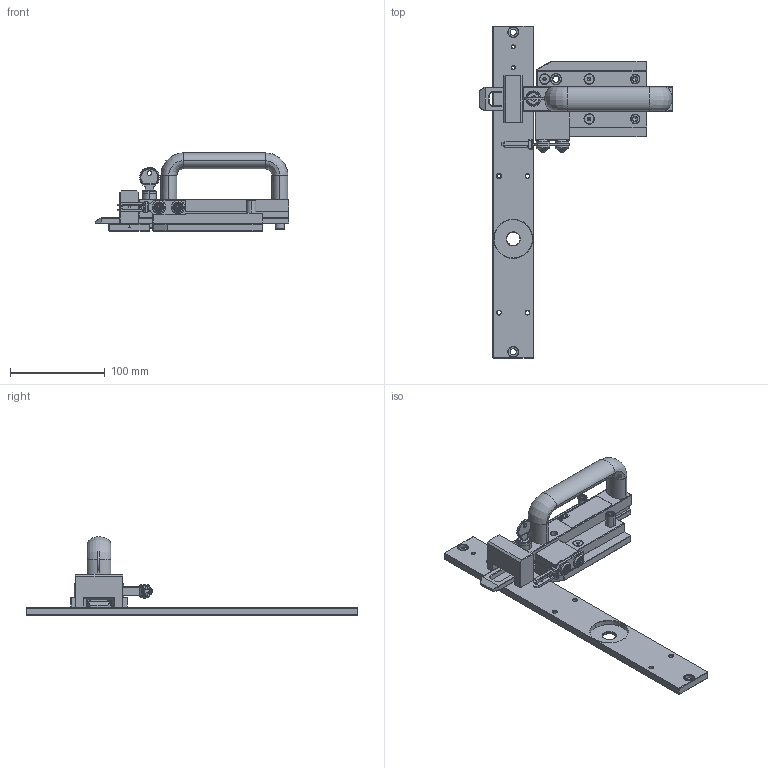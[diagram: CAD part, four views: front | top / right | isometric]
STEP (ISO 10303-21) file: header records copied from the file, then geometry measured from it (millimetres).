
FILE_DESCRIPTION((''),'2;1');
FILE_NAME('2030584_ASM','2021-02-26T11:18:35',('j.rink'),(''),'CREO PARAMETRIC BY PTC INC, 2019292','CREO PARAMETRIC BY PTC INC, 2019292','');
FILE_SCHEMA(('AUTOMOTIVE_DESIGN { 1 0 10303 214 1 1 1 1 }'));
Length unit declared in the file: millimetre
Products named in the file (7): 2030576; 2030577; 2030582; 2030579; 2029236; 2029515; 2030584_ASM
Assembly tree (6 placements, depth 2):
  2030584_ASM
    2030576
    2030577
    2030582
    2030579
    2029236
    2029515
Bounding box: 203.75 x 350 x 82.57 mm (x, y, z)
Volume: 432464 mm3; surface area: 125403.8 mm2
Topology: 9 solids, 28 shells, 1314 faces, 3773 edges, 2524 vertices
Faces by surface type: plane 564, cylinder 327, cone 250, torus 96, bspline 45, sphere 22, extrusion 6, revolution 4
Entity records: 60141 total; most frequent: CARTESIAN_POINT 12583, DIRECTION 7117, ORIENTED_EDGE 6831, PRESENTATION_STYLE_ASSIGNMENT 3816, STYLED_ITEM 3772, CURVE_STYLE 3744, EDGE_CURVE 3729, VERTEX_POINT 2512
